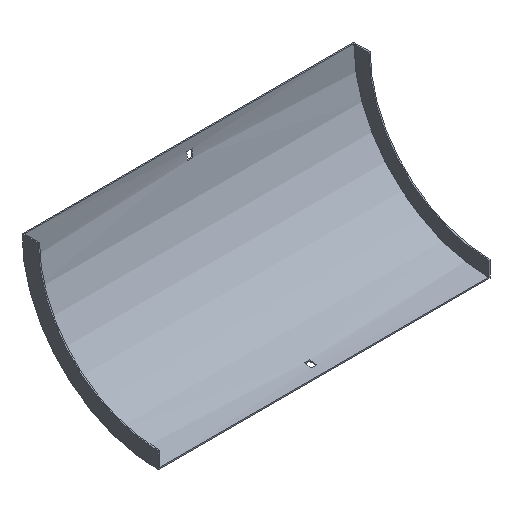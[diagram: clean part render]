
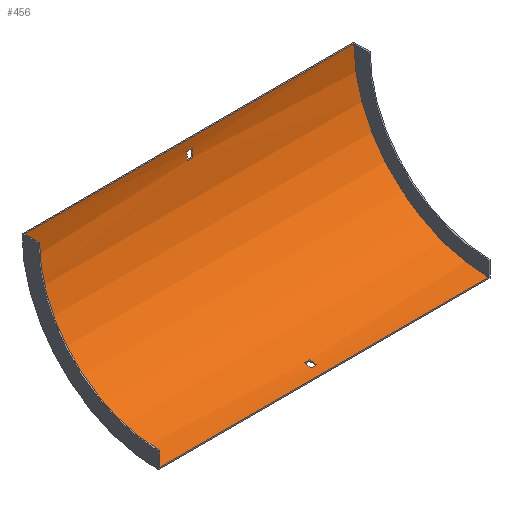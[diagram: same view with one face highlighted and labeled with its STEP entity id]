
A CAD part, isometric view. The second image highlights one B-rep face of the part: STEP entity #456.
In plain terms, the highlighted cylindrical face has radius 165.5 mm (diameter 331 mm), a partial arc.
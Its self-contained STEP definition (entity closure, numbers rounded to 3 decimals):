
#4 = VECTOR ( 'NONE', #497, 1000. ) ;
#5 = VERTEX_POINT ( 'NONE', #360 ) ;
#8 = DIRECTION ( 'NONE',  ( -1., 0., 0. ) ) ;
#15 = CIRCLE ( 'NONE', #99, 165.5 ) ;
#28 = VERTEX_POINT ( 'NONE', #274 ) ;
#30 = DIRECTION ( 'NONE',  ( 0., 0., 1. ) ) ;
#32 = LINE ( 'NONE', #129, #276 ) ;
#35 = VECTOR ( 'NONE', #106, 1000. ) ;
#49 = FACE_OUTER_BOUND ( 'NONE', #236, .T. ) ;
#56 = CARTESIAN_POINT ( 'NONE',  ( -3.25, -1.936, -12. ) ) ;
#58 = VECTOR ( 'NONE', #421, 1000. ) ;
#60 = DIRECTION ( 'NONE',  ( 0., 0., 1. ) ) ;
#65 = EDGE_CURVE ( 'NONE', #146, #218, #544, .T. ) ;
#68 = VECTOR ( 'NONE', #447, 1000. ) ;
#85 = ORIENTED_EDGE ( 'NONE', *, *, #537, .T. ) ;
#88 = EDGE_CURVE ( 'NONE', #471, #28, #267, .T. ) ;
#91 = DIRECTION ( 'NONE',  ( 0., 0., 1. ) ) ;
#95 = LINE ( 'NONE', #273, #58 ) ;
#99 = AXIS2_PLACEMENT_3D ( 'NONE', #180, #210, #173 ) ;
#106 = DIRECTION ( 'NONE',  ( 1., 0., 0. ) ) ;
#119 = CARTESIAN_POINT ( 'NONE',  ( -3.25, -2.838, -21. ) ) ;
#126 = CARTESIAN_POINT ( 'NONE',  ( -3.25, -167., 0. ) ) ;
#129 = CARTESIAN_POINT ( 'NONE',  ( 203.5, -1.936, -12. ) ) ;
#132 = DIRECTION ( 'NONE',  ( 0., 0., 1. ) ) ;
#139 = CARTESIAN_POINT ( 'NONE',  ( -3.25, -146., -164.162 ) ) ;
#140 = CARTESIAN_POINT ( 'NONE',  ( 3.25, -167., 0. ) ) ;
#146 = VERTEX_POINT ( 'NONE', #480 ) ;
#152 = EDGE_CURVE ( 'NONE', #320, #396, #327, .T. ) ;
#154 = CIRCLE ( 'NONE', #230, 165.5 ) ;
#166 = LINE ( 'NONE', #549, #595 ) ;
#168 = VERTEX_POINT ( 'NONE', #197 ) ;
#173 = DIRECTION ( 'NONE',  ( 0., 0., -1. ) ) ;
#176 = DIRECTION ( 'NONE',  ( 0., 0., -1. ) ) ;
#180 = CARTESIAN_POINT ( 'NONE',  ( 3.25, -167., 0. ) ) ;
#197 = CARTESIAN_POINT ( 'NONE',  ( 3.25, -1.936, -12. ) ) ;
#203 = ORIENTED_EDGE ( 'NONE', *, *, #152, .F. ) ;
#207 = CIRCLE ( 'NONE', #554, 165.5 ) ;
#210 = DIRECTION ( 'NONE',  ( 1., 0., 0. ) ) ;
#215 = ORIENTED_EDGE ( 'NONE', *, *, #543, .F. ) ;
#218 = VERTEX_POINT ( 'NONE', #562 ) ;
#223 = CARTESIAN_POINT ( 'NONE',  ( 202., -1.5, 0. ) ) ;
#230 = AXIS2_PLACEMENT_3D ( 'NONE', #402, #312, #132 ) ;
#236 = EDGE_LOOP ( 'NONE', ( #536, #503, #426, #363 ) ) ;
#240 = VERTEX_POINT ( 'NONE', #56 ) ;
#242 = CARTESIAN_POINT ( 'NONE',  ( 203.5, -155., -165.064 ) ) ;
#247 = AXIS2_PLACEMENT_3D ( 'NONE', #140, #324, #516 ) ;
#248 = DIRECTION ( 'NONE',  ( -1., 0., 0. ) ) ;
#260 = EDGE_CURVE ( 'NONE', #240, #320, #207, .T. ) ;
#265 = CARTESIAN_POINT ( 'NONE',  ( -3.25, -167., 0. ) ) ;
#267 = CIRCLE ( 'NONE', #247, 165.5 ) ;
#273 = CARTESIAN_POINT ( 'NONE',  ( 202., -167., -165.5 ) ) ;
#274 = CARTESIAN_POINT ( 'NONE',  ( 3.25, -155., -165.064 ) ) ;
#275 = FACE_BOUND ( 'NONE', #580, .T. ) ;
#276 = VECTOR ( 'NONE', #546, 1000. ) ;
#286 = CARTESIAN_POINT ( 'NONE',  ( 3.25, -146., -164.162 ) ) ;
#299 = CARTESIAN_POINT ( 'NONE',  ( 3.25, -2.838, -21. ) ) ;
#312 = DIRECTION ( 'NONE',  ( 1., 0., 0. ) ) ;
#319 = CARTESIAN_POINT ( 'NONE',  ( 202., -167., 0. ) ) ;
#320 = VERTEX_POINT ( 'NONE', #119 ) ;
#324 = DIRECTION ( 'NONE',  ( -1., 0., 0. ) ) ;
#327 = LINE ( 'NONE', #526, #35 ) ;
#331 = EDGE_LOOP ( 'NONE', ( #441, #85, #539, #378 ) ) ;
#333 = AXIS2_PLACEMENT_3D ( 'NONE', #525, #8, #60 ) ;
#348 = VERTEX_POINT ( 'NONE', #448 ) ;
#349 = CARTESIAN_POINT ( 'NONE',  ( -202., -167., -165.5 ) ) ;
#357 = DIRECTION ( 'NONE',  ( 1., 0., 0. ) ) ;
#360 = CARTESIAN_POINT ( 'NONE',  ( -3.25, -155., -165.064 ) ) ;
#363 = ORIENTED_EDGE ( 'NONE', *, *, #585, .T. ) ;
#366 = CIRCLE ( 'NONE', #479, 165.5 ) ;
#378 = ORIENTED_EDGE ( 'NONE', *, *, #88, .T. ) ;
#386 = CYLINDRICAL_SURFACE ( 'NONE', #333, 165.5 ) ;
#396 = VERTEX_POINT ( 'NONE', #299 ) ;
#402 = CARTESIAN_POINT ( 'NONE',  ( -202., -167., 0. ) ) ;
#408 = DIRECTION ( 'NONE',  ( 1., 0., 0. ) ) ;
#421 = DIRECTION ( 'NONE',  ( -1., 0., 0. ) ) ;
#426 = ORIENTED_EDGE ( 'NONE', *, *, #65, .T. ) ;
#433 = FACE_BOUND ( 'NONE', #331, .T. ) ;
#441 = ORIENTED_EDGE ( 'NONE', *, *, #475, .T. ) ;
#447 = DIRECTION ( 'NONE',  ( -1., 0., 0. ) ) ;
#448 = CARTESIAN_POINT ( 'NONE',  ( -202., -1.5, 0. ) ) ;
#454 = EDGE_CURVE ( 'NONE', #146, #548, #95, .T. ) ;
#455 = VERTEX_POINT ( 'NONE', #139 ) ;
#456 = ADVANCED_FACE ( 'NONE', ( #275, #49, #433 ), #386, .F. ) ;
#471 = VERTEX_POINT ( 'NONE', #286 ) ;
#475 = EDGE_CURVE ( 'NONE', #28, #5, #478, .T. ) ;
#478 = LINE ( 'NONE', #242, #4 ) ;
#479 = AXIS2_PLACEMENT_3D ( 'NONE', #265, #408, #176 ) ;
#480 = CARTESIAN_POINT ( 'NONE',  ( 202., -167., -165.5 ) ) ;
#483 = EDGE_CURVE ( 'NONE', #168, #240, #32, .T. ) ;
#497 = DIRECTION ( 'NONE',  ( -1., 0., 0. ) ) ;
#501 = EDGE_CURVE ( 'NONE', #548, #348, #154, .T. ) ;
#503 = ORIENTED_EDGE ( 'NONE', *, *, #454, .F. ) ;
#510 = ORIENTED_EDGE ( 'NONE', *, *, #483, .F. ) ;
#516 = DIRECTION ( 'NONE',  ( 0., 0., 1. ) ) ;
#522 = EDGE_CURVE ( 'NONE', #455, #471, #166, .T. ) ;
#525 = CARTESIAN_POINT ( 'NONE',  ( 203.5, -167., 0. ) ) ;
#526 = CARTESIAN_POINT ( 'NONE',  ( 203.5, -2.838, -21. ) ) ;
#530 = ORIENTED_EDGE ( 'NONE', *, *, #260, .F. ) ;
#536 = ORIENTED_EDGE ( 'NONE', *, *, #501, .F. ) ;
#537 = EDGE_CURVE ( 'NONE', #5, #455, #366, .T. ) ;
#539 = ORIENTED_EDGE ( 'NONE', *, *, #522, .T. ) ;
#543 = EDGE_CURVE ( 'NONE', #396, #168, #15, .T. ) ;
#544 = CIRCLE ( 'NONE', #594, 165.5 ) ;
#546 = DIRECTION ( 'NONE',  ( -1., 0., 0. ) ) ;
#548 = VERTEX_POINT ( 'NONE', #349 ) ;
#549 = CARTESIAN_POINT ( 'NONE',  ( 203.5, -146., -164.162 ) ) ;
#554 = AXIS2_PLACEMENT_3D ( 'NONE', #126, #248, #30 ) ;
#555 = DIRECTION ( 'NONE',  ( 1., 0., 0. ) ) ;
#562 = CARTESIAN_POINT ( 'NONE',  ( 202., -1.5, 0. ) ) ;
#580 = EDGE_LOOP ( 'NONE', ( #530, #510, #215, #203 ) ) ;
#585 = EDGE_CURVE ( 'NONE', #218, #348, #596, .T. ) ;
#594 = AXIS2_PLACEMENT_3D ( 'NONE', #319, #555, #91 ) ;
#595 = VECTOR ( 'NONE', #357, 1000. ) ;
#596 = LINE ( 'NONE', #223, #68 ) ;
